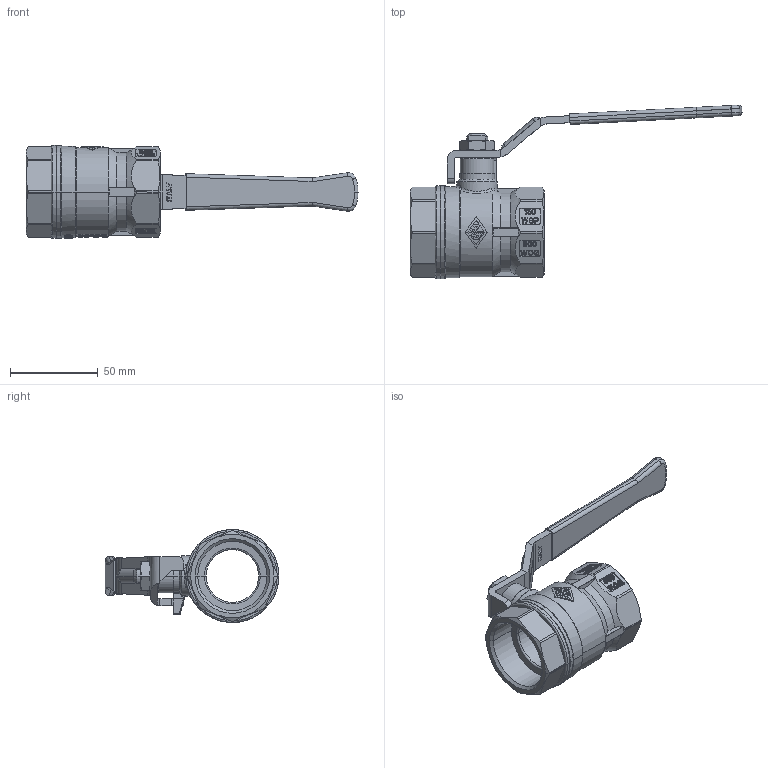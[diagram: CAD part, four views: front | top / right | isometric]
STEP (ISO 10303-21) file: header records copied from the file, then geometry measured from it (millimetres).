
FILE_DESCRIPTION(('CoCreate Modeling STEP Export'),'2;1');
FILE_NAME('1510070000.stp','2010-11-17T16:51:52',(''),(''),'CoCreate Modeling STEP processor for AP214 (Solid Model)','CoCreate Modeling 16.00D 29-May-2009 (C) Parametric Technology GmbH','');
FILE_SCHEMA(('AUTOMOTIVE_DESIGN { 1 0 10303 214 1 1 1 1 }'));
Products named in the file (2): 1510070000
Assembly tree (1 placements, depth 2):
  1510070000
    1510070000
Bounding box: 189.2 x 98.99 x 53 mm (x, y, z)
Volume: 103842.5 mm3; surface area: 34681.3 mm2
Topology: 1 solids, 1 shells, 2190 faces, 6230 edges, 4108 vertices
Faces by surface type: plane 1855, cylinder 228, cone 63, torus 22, bspline 13, sphere 9
Entity records: 85653 total; most frequent: CARTESIAN_POINT 26914, ORIENTED_EDGE 12438, DIRECTION 11368, EDGE_CURVE 6219, VECTOR 4144, LINE 4144, VERTEX_POINT 4108, AXIS2_PLACEMENT_3D 3612
